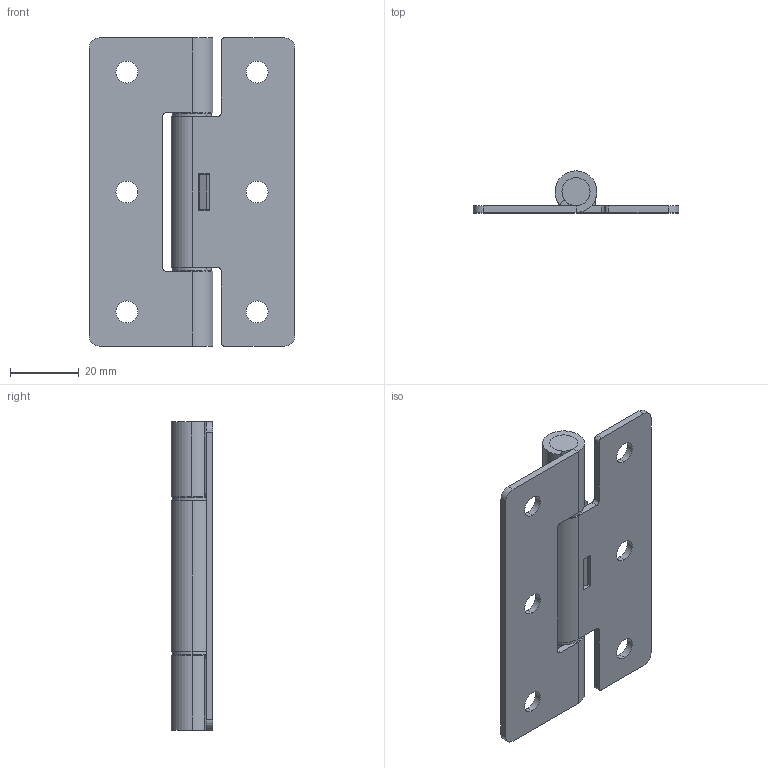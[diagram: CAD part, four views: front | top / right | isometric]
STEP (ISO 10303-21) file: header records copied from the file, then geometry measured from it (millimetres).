
FILE_DESCRIPTION (( 'STEP AP203' ), '1' );
FILE_NAME ('XG11-021-1.STEP', '2023-12-04T08:04:46', ( '' ), ( '' ), 'SwSTEP 2.0', 'SolidWorks 2020', '' );
FILE_SCHEMA (( 'CONFIG_CONTROL_DESIGN' ));
Length unit declared in the file: millimetre
Products named in the file (6): DP035-1蝓蟈1; XG11-021-1; 种赽; hl50-1; DP035-1蝓蟈2; hl50
Assembly tree (6 placements, depth 2):
  XG11-021-1
    种赽  x2
    DP035-1蝓蟈1
    DP035-1蝓蟈2
    hl50
    hl50-1
Bounding box: 60 x 12.2 x 90 mm (x, y, z)
Volume: 18200.8 mm3; surface area: 19596.4 mm2
Topology: 6 solids, 6 shells, 121 faces, 311 edges, 202 vertices
Faces by surface type: plane 62, cylinder 56, cone 3
Entity records: 4237 total; most frequent: DIRECTION 657, CARTESIAN_POINT 646, ORIENTED_EDGE 598, EDGE_CURVE 299, AXIS2_PLACEMENT_3D 245, VERTEX_POINT 194, LINE 167, VECTOR 167
